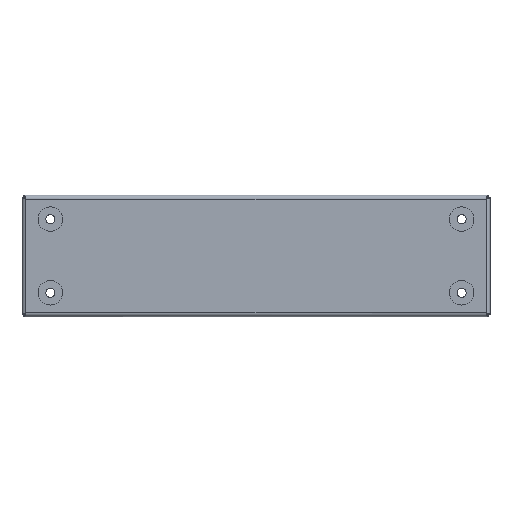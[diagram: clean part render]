
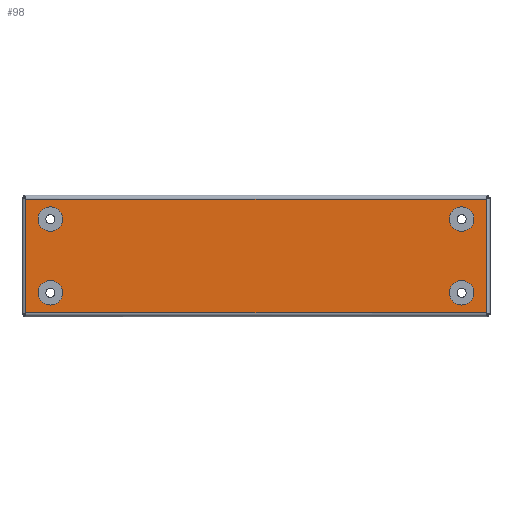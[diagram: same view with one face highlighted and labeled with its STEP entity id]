
A CAD part, top view. The second image highlights one B-rep face of the part: STEP entity #98.
In plain terms, the highlighted planar face has unit normal (0, 0, 1).
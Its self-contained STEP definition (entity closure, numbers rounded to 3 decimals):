
#98=ADVANCED_FACE('',(#550,#552,#554,#556,#558),#560,.F.);
#550=FACE_BOUND('',#551,.T.);
#551=EDGE_LOOP('',(#1477,#1478,#1479,#1480));
#552=FACE_BOUND('',#553,.T.);
#553=EDGE_LOOP('',(#1481));
#554=FACE_BOUND('',#555,.T.);
#555=EDGE_LOOP('',(#1482));
#556=FACE_BOUND('',#557,.T.);
#557=EDGE_LOOP('',(#1483));
#558=FACE_BOUND('',#559,.T.);
#559=EDGE_LOOP('',(#1484));
#560=PLANE('',#561);
#561=AXIS2_PLACEMENT_3D('',#562,#563,#564);
#562=CARTESIAN_POINT('',(0.,0.,0.));
#563=DIRECTION('',(0.,0.,-1.));
#564=DIRECTION('',(-1.,0.,0.));
#1477=ORIENTED_EDGE('',*,*,#1877,.T.);
#1478=ORIENTED_EDGE('',*,*,#1878,.T.);
#1479=ORIENTED_EDGE('',*,*,#1879,.T.);
#1480=ORIENTED_EDGE('',*,*,#1880,.T.);
#1481=ORIENTED_EDGE('',*,*,#1835,.F.);
#1482=ORIENTED_EDGE('',*,*,#1833,.F.);
#1483=ORIENTED_EDGE('',*,*,#1831,.F.);
#1484=ORIENTED_EDGE('',*,*,#1829,.F.);
#1829=EDGE_CURVE('',#2089,#2089,#2090,.T.);
#1831=EDGE_CURVE('',#2093,#2093,#2094,.T.);
#1833=EDGE_CURVE('',#2097,#2097,#2098,.T.);
#1835=EDGE_CURVE('',#2101,#2101,#2102,.T.);
#1877=EDGE_CURVE('',#2181,#2182,#2183,.T.);
#1878=EDGE_CURVE('',#2182,#2184,#2185,.T.);
#1879=EDGE_CURVE('',#2184,#2186,#2187,.T.);
#1880=EDGE_CURVE('',#2186,#2181,#2188,.T.);
#2089=VERTEX_POINT('',#2605);
#2090=CIRCLE('',#2606,10.);
#2093=VERTEX_POINT('',#2615);
#2094=CIRCLE('',#2616,10.);
#2097=VERTEX_POINT('',#2625);
#2098=CIRCLE('',#2626,10.);
#2101=VERTEX_POINT('',#2635);
#2102=CIRCLE('',#2636,10.);
#2181=VERTEX_POINT('',#2809);
#2182=VERTEX_POINT('',#2810);
#2183=LINE('',#2811,#2812);
#2184=VERTEX_POINT('',#2814);
#2185=LINE('',#2815,#2816);
#2186=VERTEX_POINT('',#2818);
#2187=LINE('',#2819,#2820);
#2188=LINE('',#2822,#2823);
#2605=CARTESIAN_POINT('',(-157.51,30.,0.));
#2606=AXIS2_PLACEMENT_3D('',#2607,#2608,#2609);
#2607=CARTESIAN_POINT('',(-167.51,30.,0.));
#2608=DIRECTION('',(0.,0.,1.));
#2609=DIRECTION('',(-1.,0.,0.));
#2615=CARTESIAN_POINT('',(177.51,30.,0.));
#2616=AXIS2_PLACEMENT_3D('',#2617,#2618,#2619);
#2617=CARTESIAN_POINT('',(167.51,30.,0.));
#2618=DIRECTION('',(0.,0.,1.));
#2619=DIRECTION('',(-1.,0.,0.));
#2625=CARTESIAN_POINT('',(177.51,-30.,0.));
#2626=AXIS2_PLACEMENT_3D('',#2627,#2628,#2629);
#2627=CARTESIAN_POINT('',(167.51,-30.,0.));
#2628=DIRECTION('',(0.,0.,1.));
#2629=DIRECTION('',(-1.,0.,0.));
#2635=CARTESIAN_POINT('',(-157.51,-30.,0.));
#2636=AXIS2_PLACEMENT_3D('',#2637,#2638,#2639);
#2637=CARTESIAN_POINT('',(-167.51,-30.,0.));
#2638=DIRECTION('',(0.,0.,1.));
#2639=DIRECTION('',(-1.,0.,0.));
#2809=CARTESIAN_POINT('',(187.45,-46.3,0.));
#2810=CARTESIAN_POINT('',(187.45,46.3,0.));
#2811=CARTESIAN_POINT('',(187.45,-46.3,0.));
#2812=VECTOR('',#2813,1.);
#2813=DIRECTION('',(0.,1.,0.));
#2814=CARTESIAN_POINT('',(-187.45,46.3,0.));
#2815=CARTESIAN_POINT('',(187.45,46.3,0.));
#2816=VECTOR('',#2817,1.);
#2817=DIRECTION('',(-1.,0.,0.));
#2818=CARTESIAN_POINT('',(-187.45,-46.3,0.));
#2819=CARTESIAN_POINT('',(-187.45,46.3,0.));
#2820=VECTOR('',#2821,1.);
#2821=DIRECTION('',(0.,-1.,0.));
#2822=CARTESIAN_POINT('',(-187.45,-46.3,0.));
#2823=VECTOR('',#2824,1.);
#2824=DIRECTION('',(1.,0.,0.));
